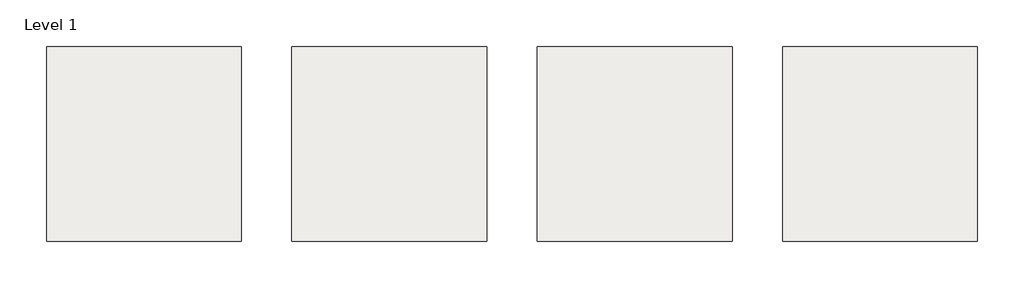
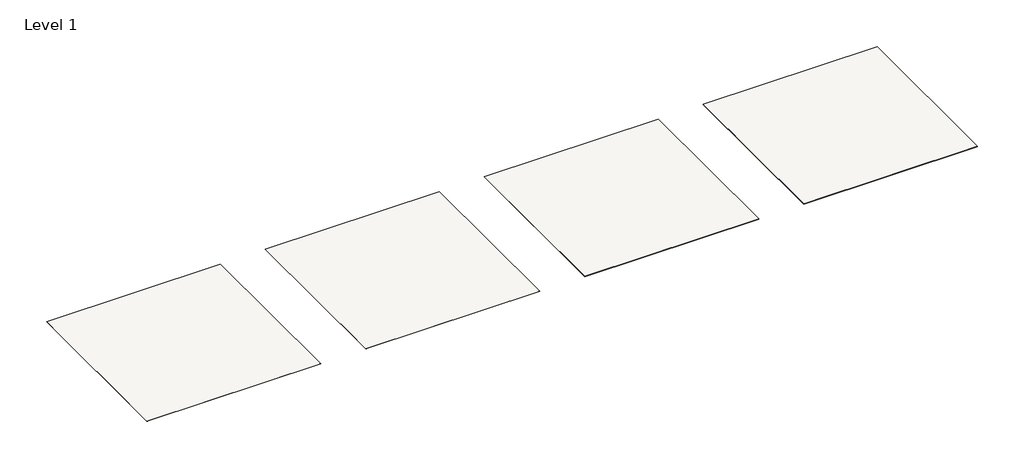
# One storey: 4 slabs.
"""IFC4 building model written with IfcOpenShell, lengths in millimetres."""

from ifc_helpers import new_model, si_unit, frame, origin, place, context, project, spatial, polyline, outline, extrude, element, save

model = new_model("IFC4")

# Units and contexts
model_context = context("Model", 3, world=origin())
ifc_project = project(units=[si_unit("LENGTHUNIT", "METRE", prefix="MILLI")], contexts=[model_context])

# Site, building, storey
site = spatial("IfcSite", under=ifc_project)
building = spatial("IfcBuilding", under=site)
storey = spatial("IfcBuildingStorey", under=building, Name="Level 1", Elevation=0.0)

# Slabs
placement = place(None, origin())
element("IfcSlab", 1, ObjectType="Thesize_Neolith_3mm+-New York-New York - 3600x1200 mm-Silk", at=placement, inside=storey, context=model_context, shape_type="SweptSolid", body=[
    extrude(outline(polyline([(46732.6076717, -107157.477561), (46732.6076717, -112157.477561), (41732.6076717, -112157.477561), (41732.6076717, -107157.477561), (46732.6076717, -107157.477561)])), frame((0.0, 0.0, -3.0), z_axis=(0.0, 0.0, 1.0), x_axis=(1.0, 0.0, 0.0)), (0.0, 0.0, 1.0), 3.0),
])
element("IfcSlab", 2, ObjectType="Thesize_Neolith_6mm+ - New York-New York - 3200x1500 mm-Silk", at=placement, inside=storey, context=model_context, shape_type="SweptSolid", body=[
    extrude(outline(polyline([(53032.6076717, -107157.477561), (53032.6076717, -112157.477561), (48032.6076717, -112157.477561), (48032.6076717, -107157.477561), (53032.6076717, -107157.477561)])), frame((0.0, 0.0, -6.0), z_axis=(0.0, 0.0, 1.0), x_axis=(1.0, 0.0, 0.0)), (0.0, 0.0, 1.0), 6.0),
])
element("IfcSlab", 3, ObjectType="Thesize_Neolith_12mm - New York-New York - 3200x1600 mm-Silk", at=placement, inside=storey, context=model_context, shape_type="SweptSolid", body=[
    extrude(outline(polyline([(59332.6076717, -107157.477561), (59332.6076717, -112157.477561), (54332.6076717, -112157.477561), (54332.6076717, -107157.477561), (59332.6076717, -107157.477561)])), frame((0.0, 0.0, -12.0), z_axis=(0.0, 0.0, 1.0), x_axis=(1.0, 0.0, 0.0)), (0.0, 0.0, 1.0), 12.0),
])
element("IfcSlab", 4, ObjectType="Thesize_Neolith_20mm - New York-New York - 3200x1600 mm-Silk", at=placement, inside=storey, context=model_context, shape_type="SweptSolid", body=[
    extrude(outline(polyline([(65632.6076717, -107157.477561), (65632.6076717, -112157.477561), (60632.6076717, -112157.477561), (60632.6076717, -107157.477561), (65632.6076717, -107157.477561)])), frame((0.0, 0.0, -20.0), z_axis=(0.0, 0.0, 1.0), x_axis=(1.0, 0.0, 0.0)), (0.0, 0.0, 1.0), 20.0),
])

save(model, "model.ifc")
